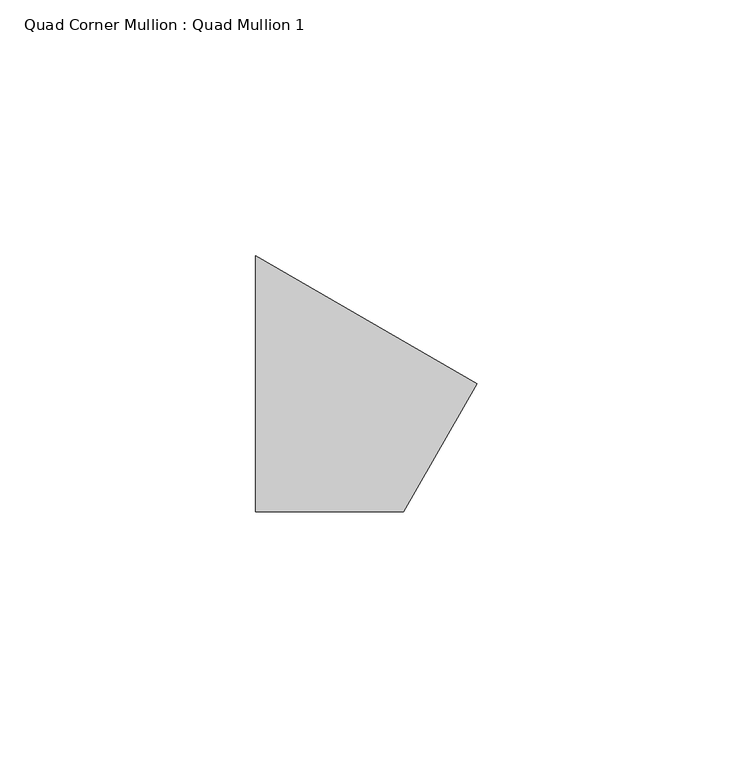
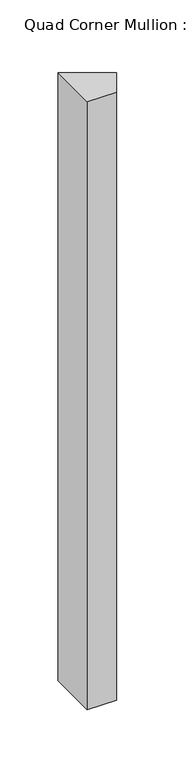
"""IFC4 building model written with IfcOpenShell, lengths in millimetres: member geometry, Quad Corner Mullion : Quad Mullion 1."""

import ifcopenshell
import ifcopenshell.guid

model = None  # the IFC model being written
_history = None  # IfcOwnerHistory: only IFC2X3 demands one
_inside = {}  # id of a spatial element -> (the spatial element, [elements in it])
_under = {}  # id of a project, library or spatial element -> (it, [spatial elements below it])
_declared = {}  # id of a project -> (the project, [libraries it declares])
_typed = {}  # id of a type object -> (the type object, [elements of that type])
_made_of = {}  # id of a material, layer set ... -> (it, [elements and type objects made of it])


def new_model(schema):
    """Start an empty IFC model of exactly this schema.

    Asked for "IFC4X3", IfcOpenShell would pick the latest addendum, in which some entities
    have other attributes; the version numbers below select the first issue.
    IFC2X3 requires an IfcOwnerHistory on every rooted entity: one is made here for all.
    """
    global model, _history
    if schema == "IFC4X3":
        model = ifcopenshell.file(schema_version=(4, 3, 0, 0))
    else:
        model = ifcopenshell.file(schema=schema)
    _inside.clear()
    _under.clear()
    _declared.clear()
    _typed.clear()
    _made_of.clear()
    _history = None
    if model.schema == "IFC2X3":
        org = make("IfcOrganization", Name="unknown")
        user = make(
            "IfcPersonAndOrganization",
            ThePerson=make("IfcPerson", FamilyName="unknown"),
            TheOrganization=org,
        )
        app = make(
            "IfcApplication",
            ApplicationDeveloper=org,
            Version="unknown",
            ApplicationFullName="unknown",
            ApplicationIdentifier="unknown",
        )
        _history = make(
            "IfcOwnerHistory",
            OwningUser=user,
            OwningApplication=app,
            ChangeAction="ADDED",
            CreationDate=0,
        )
    return model


def make(cls, **values):
    """One entity of the class cls with the attributes given. An attribute that is None is left unset."""
    return model.create_entity(
        cls, **{name: value for name, value in values.items() if value is not None}
    )


def rooted(cls, **values):
    """An entity with a GlobalId (a new one), such as an element, a storey or a relation."""
    return make(cls, GlobalId=ifcopenshell.guid.new(), OwnerHistory=_history, **values)


def si_unit(unit_type, name, prefix=None):
    """IfcSIUnit, for example si_unit("LENGTHUNIT", "METRE", prefix="MILLI")."""
    return make("IfcSIUnit", UnitType=unit_type, Prefix=prefix, Name=name)


def assignment(units):
    """IfcUnitAssignment: the units of a project."""
    return None if units is None else make("IfcUnitAssignment", Units=units)


def point(xyz):
    """IfcCartesianPoint."""
    return None if xyz is None else make("IfcCartesianPoint", Coordinates=xyz)


def direction(xyz):
    """IfcDirection."""
    return None if xyz is None else make("IfcDirection", DirectionRatios=xyz)


def frame(location, z_axis=None, x_axis=None):
    """IfcAxis2Placement3D, a coordinate frame: its origin and axes. An axis left out is left unset."""
    return make(
        "IfcAxis2Placement3D",
        Location=point(location),
        Axis=direction(z_axis),
        RefDirection=direction(x_axis),
    )


def origin():
    """The frame at (0, 0, 0) with its axes left unset."""
    return frame((0.0, 0.0, 0.0))


def place(relative_to, where):
    """IfcLocalPlacement: puts the frame where relative to a parent placement (None: the world)."""
    return make(
        "IfcLocalPlacement", PlacementRelTo=relative_to, RelativePlacement=where
    )


def context(
    kind, dimensions, precision=None, world=None, true_north=None, identifier=None
):
    """IfcGeometricRepresentationContext, for example the 3D "Model" context."""
    return make(
        "IfcGeometricRepresentationContext",
        ContextIdentifier=identifier,
        ContextType=kind,
        CoordinateSpaceDimension=dimensions,
        Precision=precision,
        WorldCoordinateSystem=world,
        TrueNorth=true_north,
    )


def project(units=None, contexts=None):
    """IfcProject with its units and contexts."""
    return rooted(
        "IfcProject",
        Name="project",
        RepresentationContexts=contexts,
        UnitsInContext=assignment(units),
    )


def spatial(cls, under=None, at=None, **own):
    """A site, building, storey or space (cls), placed at a placement, below another one or the project."""
    s = rooted(cls, ObjectPlacement=at, **own)
    if under is not None:
        _under.setdefault(under.id(), (under, []))[1].append(s)
    return s


def polyline(points):
    """IfcPolyline through the points."""
    return make("IfcPolyline", Points=[point(p) for p in points])


def outline(outer, holes=None, kind="AREA"):
    """IfcArbitraryClosedProfileDef: a profile drawn as a closed curve; with holes, ...WithVoids."""
    if holes is None:
        return make("IfcArbitraryClosedProfileDef", ProfileType=kind, OuterCurve=outer)
    return make(
        "IfcArbitraryProfileDefWithVoids",
        ProfileType=kind,
        OuterCurve=outer,
        InnerCurves=holes,
    )


def extrude(swept, where, along, depth):
    """IfcExtrudedAreaSolid: the profile swept, set in the frame where, extruded along a direction by depth."""
    return make(
        "IfcExtrudedAreaSolid",
        SweptArea=swept,
        Position=where,
        ExtrudedDirection=direction(along),
        Depth=depth,
    )


def shape(context_of_items, identifier, shape_type, items):
    """IfcShapeRepresentation: the items that make up one representation, for example the "Body"."""
    return make(
        "IfcShapeRepresentation",
        ContextOfItems=context_of_items,
        RepresentationIdentifier=identifier,
        RepresentationType=shape_type,
        Items=items,
    )


def source(mapping_origin, context_of_items, identifier, shape_type, items):
    """IfcRepresentationMap: a shape defined once, which mapped items show again and again."""
    return make(
        "IfcRepresentationMap",
        MappingOrigin=mapping_origin,
        MappedRepresentation=shape(context_of_items, identifier, shape_type, items),
    )


def transform(
    local_origin,
    x_axis=None,
    y_axis=None,
    z_axis=None,
    scale=None,
    scale2=None,
    scale3=None,
    uniform=True,
):
    """IfcCartesianTransformationOperator3D, or its non-uniform kind. x_axis, y_axis, z_axis: its Axis1, 2, 3."""
    if uniform:
        return make(
            "IfcCartesianTransformationOperator3D",
            Axis1=direction(x_axis),
            Axis2=direction(y_axis),
            LocalOrigin=point(local_origin),
            Scale=scale,
            Axis3=direction(z_axis),
        )
    return make(
        "IfcCartesianTransformationOperator3DnonUniform",
        Axis1=direction(x_axis),
        Axis2=direction(y_axis),
        LocalOrigin=point(local_origin),
        Scale=scale,
        Axis3=direction(z_axis),
        Scale2=scale2,
        Scale3=scale3,
    )


def mapped(mapping_source, mapping_target):
    """IfcMappedItem: shows the shape of a source again, moved by a transform."""
    return make(
        "IfcMappedItem", MappingSource=mapping_source, MappingTarget=mapping_target
    )


def made_of(thing, what):
    """Note that an element or type object is made of a material, layer set ...; save() writes the relation."""
    if what is not None:
        _made_of.setdefault(what.id(), (what, []))[1].append(thing)
    return thing


def element(
    cls,
    number,
    at=None,
    inside=None,
    cuts=None,
    type_object=None,
    material=None,
    context=None,
    identifier="Body",
    shape_type=None,
    held_by="IfcProductDefinitionShape",
    body=None,
    shapes=None,
    **own,
):
    """One element of the class cls, such as IfcWall. Its Tag is "e" and its number.

    at: its placement. inside: the storey or other place that contains it. cuts: it is an
    opening in that element (IfcRelVoidsElement). A single representation is given by context,
    identifier, shape_type and body (its items); several are given by shapes. held_by: the class
    of the entity that holds the representations. save() writes the other relations.
    """
    e = rooted(cls, Tag="e%d" % number, ObjectPlacement=at, **own)
    if body is not None:
        shapes = [shape(context, identifier, shape_type, body)]
    if shapes is not None:
        e.Representation = make(held_by, Representations=shapes)
    if inside is not None:
        _inside.setdefault(inside.id(), (inside, []))[1].append(e)
    if cuts is not None:
        rooted(
            "IfcRelVoidsElement", RelatingBuildingElement=cuts, RelatedOpeningElement=e
        )
    if type_object is not None:
        _typed.setdefault(type_object.id(), (type_object, []))[1].append(e)
    return made_of(e, material)


def aggregate(whole, parts):
    """IfcRelAggregates: a whole, such as a stair, and the parts it consists of."""
    return rooted("IfcRelAggregates", RelatingObject=whole, RelatedObjects=parts)


def save(model, path):
    """Write the relations noted so far, then the file.

    IfcRelAggregates (storeys below a building ...), IfcRelContainedInSpatialStructure (elements
    in a storey), IfcRelDefinesByType, IfcRelAssociatesMaterial and IfcRelDeclares: one each for
    every whole, place, type object, material and project.
    """
    for whole, parts in _under.values():
        aggregate(whole, parts)
    for where, things in _inside.values():
        rooted(
            "IfcRelContainedInSpatialStructure",
            RelatedElements=things,
            RelatingStructure=where,
        )
    for kind, things in _typed.values():
        rooted("IfcRelDefinesByType", RelatedObjects=things, RelatingType=kind)
    for what, things in _made_of.values():
        rooted("IfcRelAssociatesMaterial", RelatedObjects=things, RelatingMaterial=what)
    for by, libraries in _declared.values():
        rooted("IfcRelDeclares", RelatingContext=by, RelatedDefinitions=libraries)
    model.write(path)


def quad_corner_mullion_quad_mullion_1_aba192aa(model_context):
    return source(origin(), model_context, "Body", "SweptSolid", [
        extrude(outline(polyline([(28.8675135, 0.0), (14.4337567, -25.0), (-14.4337567, -25.0), (-14.4337567, 25.0), (28.8675135, 0.0)])), frame((0.0, 0.0, -636.9639471), z_axis=(0.0, 0.0, 1.0), x_axis=(1.0, 0.0, 0.0)), (0.0, 0.0, 1.0), 636.9639471),
    ])


if __name__ == "__main__":
    model = new_model("IFC4")
    model_context = context("Model", 3, world=origin())
    ifc_project = project(units=[si_unit("LENGTHUNIT", "METRE", prefix="MILLI")], contexts=[model_context])
    site = spatial("IfcSite", under=ifc_project)
    building = spatial("IfcBuilding", under=site)
    placement = place(None, origin())
    quad_corner_mullion_quad_mullion_1_shape = quad_corner_mullion_quad_mullion_1_aba192aa(model_context)
    element("IfcMember", 1, ObjectType="Quad Corner Mullion : Quad Mullion 1", at=placement, inside=building, context=model_context, shape_type="MappedRepresentation", body=[
        mapped(quad_corner_mullion_quad_mullion_1_shape, transform((0.0, 0.0, 0.0), x_axis=(1.0, 0.0, 0.0), y_axis=(0.0, 1.0, 0.0), z_axis=(0.0, 0.0, 1.0))),
    ])
    save(model, "model.ifc")
